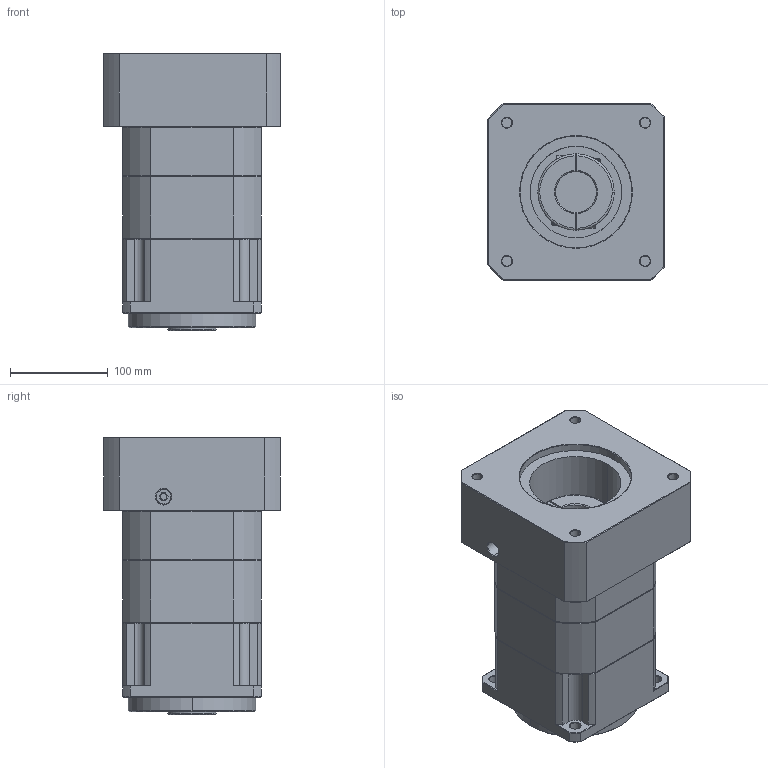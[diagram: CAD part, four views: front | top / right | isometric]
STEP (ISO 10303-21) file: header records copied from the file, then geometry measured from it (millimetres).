
FILE_DESCRIPTION (( 'STEP AP214' ), '1' );
FILE_NAME ('ZPB142-K35-L2-P1-42-114.3-200-M12.step', '2024-07-05T00:12:17', ( 'Windows 蚚誧' ), ( 'Organization' ), 'SwSTEP 2.0', 'SolidWorks 2016', '' );
FILE_SCHEMA (( 'AUTOMOTIVE_DESIGN' ));
Length unit declared in the file: millimetre
Products named in the file (1): ZPB142-K35-L2-P1-42-114.3-200-M12
Bounding box: 180 x 180 x 283.5 mm (x, y, z)
Surface area: 290012 mm2 (no closed solid volume)
Topology: 0 solids, 36 shells, 1773 faces, 4715 edges, 3018 vertices
Faces by surface type: plane 918, bspline 376, cone 265, cylinder 214
Entity records: 87218 total; most frequent: CARTESIAN_POINT 37755, ORIENTED_EDGE 9426, DIRECTION 7261, EDGE_CURVE 4715, LINE 3141, VECTOR 3141, VERTEX_POINT 3018, AXIS2_PLACEMENT_3D 2060
